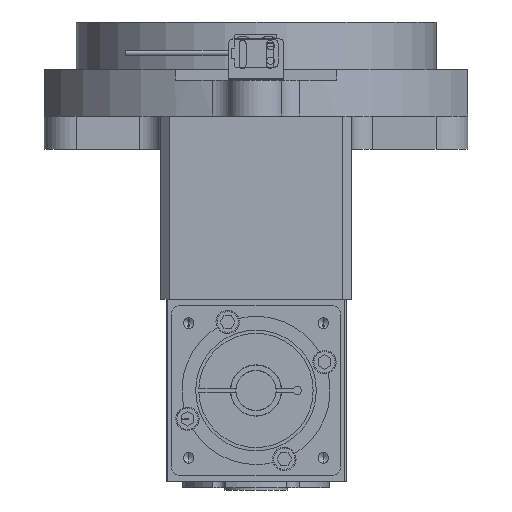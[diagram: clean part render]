
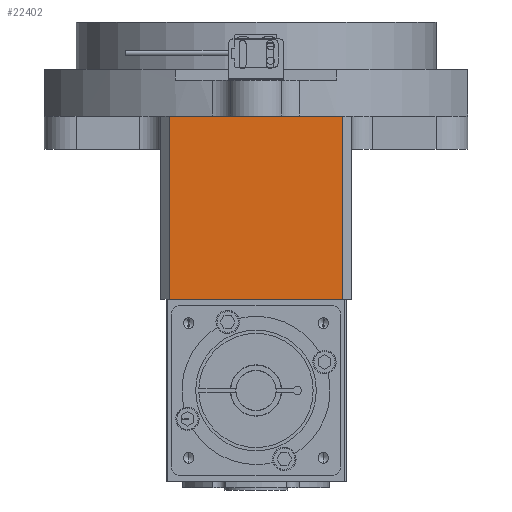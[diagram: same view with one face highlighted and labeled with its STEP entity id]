
A CAD part, front view. The second image highlights one B-rep face of the part: STEP entity #22402.
In plain terms, the highlighted planar face has unit normal (0, -1, 0).
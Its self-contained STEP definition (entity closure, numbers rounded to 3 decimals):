
#1101 = VECTOR ( 'NONE', #38739, 1000. ) ;
#5037 = PLANE ( 'NONE',  #27371 ) ;
#8343 = LINE ( 'NONE', #37990, #13640 ) ;
#9221 = EDGE_CURVE ( 'NONE', #30674, #32069, #30167, .T. ) ;
#13045 = DIRECTION ( 'NONE',  ( 1., 0., 0. ) ) ;
#13166 = VERTEX_POINT ( 'NONE', #26470 ) ;
#13640 = VECTOR ( 'NONE', #30855, 1000. ) ;
#14939 = ORIENTED_EDGE ( 'NONE', *, *, #9221, .F. ) ;
#17261 = CARTESIAN_POINT ( 'NONE',  ( -62.539, -136.605, 63. ) ) ;
#17451 = LINE ( 'NONE', #32352, #47575 ) ;
#17924 = DIRECTION ( 'NONE',  ( 0., 0., -1. ) ) ;
#18843 = ORIENTED_EDGE ( 'NONE', *, *, #37295, .F. ) ;
#19924 = CARTESIAN_POINT ( 'NONE',  ( 19.461, -136.605, -68. ) ) ;
#20325 = ORIENTED_EDGE ( 'NONE', *, *, #37139, .T. ) ;
#20938 = DIRECTION ( 'NONE',  ( 1., 0., 0. ) ) ;
#22402 = ADVANCED_FACE ( 'NONE', ( #35373 ), #5037, .F. ) ;
#26099 = VECTOR ( 'NONE', #17924, 1000. ) ;
#26343 = ORIENTED_EDGE ( 'NONE', *, *, #30148, .F. ) ;
#26470 = CARTESIAN_POINT ( 'NONE',  ( 19.461, -136.605, 18.6 ) ) ;
#27371 = AXIS2_PLACEMENT_3D ( 'NONE', #17261, #32651, #20938 ) ;
#28560 = CARTESIAN_POINT ( 'NONE',  ( 19.461, -136.605, -68. ) ) ;
#28913 = CARTESIAN_POINT ( 'NONE',  ( -62.539, -136.605, 63. ) ) ;
#29642 = LINE ( 'NONE', #28913, #26099 ) ;
#30148 = EDGE_CURVE ( 'NONE', #43439, #13166, #17451, .T. ) ;
#30167 = LINE ( 'NONE', #19924, #1101 ) ;
#30674 = VERTEX_POINT ( 'NONE', #28560 ) ;
#30855 = DIRECTION ( 'NONE',  ( 0., 0., -1. ) ) ;
#31254 = EDGE_LOOP ( 'NONE', ( #18843, #26343, #20325, #14939 ) ) ;
#32069 = VERTEX_POINT ( 'NONE', #32105 ) ;
#32105 = CARTESIAN_POINT ( 'NONE',  ( -62.539, -136.605, -68. ) ) ;
#32352 = CARTESIAN_POINT ( 'NONE',  ( -62.539, -136.605, 18.6 ) ) ;
#32651 = DIRECTION ( 'NONE',  ( 0., 1., 0. ) ) ;
#35373 = FACE_OUTER_BOUND ( 'NONE', #31254, .T. ) ;
#37139 = EDGE_CURVE ( 'NONE', #43439, #32069, #29642, .T. ) ;
#37295 = EDGE_CURVE ( 'NONE', #13166, #30674, #8343, .T. ) ;
#37990 = CARTESIAN_POINT ( 'NONE',  ( 19.461, -136.605, 63. ) ) ;
#38739 = DIRECTION ( 'NONE',  ( -1., 0., 0. ) ) ;
#43439 = VERTEX_POINT ( 'NONE', #47822 ) ;
#47575 = VECTOR ( 'NONE', #13045, 1000. ) ;
#47822 = CARTESIAN_POINT ( 'NONE',  ( -62.539, -136.605, 18.6 ) ) ;
